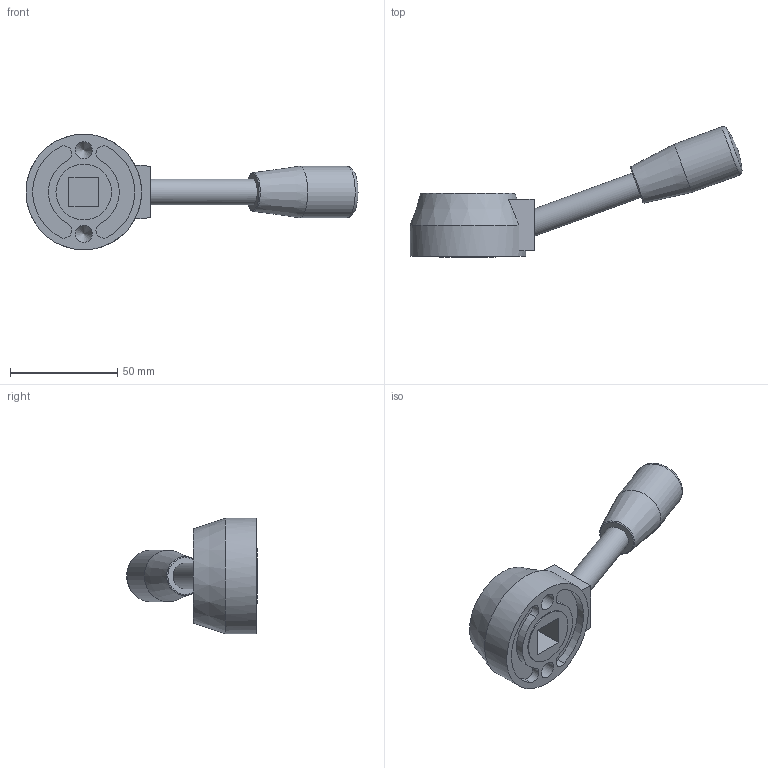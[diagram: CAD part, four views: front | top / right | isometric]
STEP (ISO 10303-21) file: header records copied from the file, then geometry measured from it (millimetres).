
FILE_DESCRIPTION( ( 'STEP AP203' ), '1' );
FILE_NAME( 'C:/Temp/Ganter_Step_05_03_2020/data/2_1/gn_512/gn_512_v/Control lever GN 512-54-V14.stp', '2020-03-05T11:51:44', ( 'License CC BY-ND 4.0' ), ( 'CADENAS' ), ' ', 'PARTsolutions', ' ' );
FILE_SCHEMA( ( 'CONFIG_CONTROL_DESIGN' ) );
Length unit declared in the file: millimetre
Products named in the file (1): _Control lever GN 512-54-V14
Bounding box: 155.09 x 61.04 x 54 mm (x, y, z)
Volume: 80329 mm3; surface area: 18685.1 mm2
Topology: 1 solids, 1 shells, 39 faces, 89 edges, 58 vertices
Faces by surface type: plane 17, cylinder 15, cone 4, torus 2, sphere 1
Full cylindrical faces by diameter (mm): 8 x2, 12 x1, 24 x1, 26 x1, 31 x1, 54 x1
Entity records: 1032 total; most frequent: DIRECTION 182, CARTESIAN_POINT 168, ORIENTED_EDGE 136, AXIS2_PLACEMENT_3D 76, EDGE_CURVE 68, EDGE_LOOP 59, VERTEX_POINT 54, FACE_OUTER_BOUND 48
